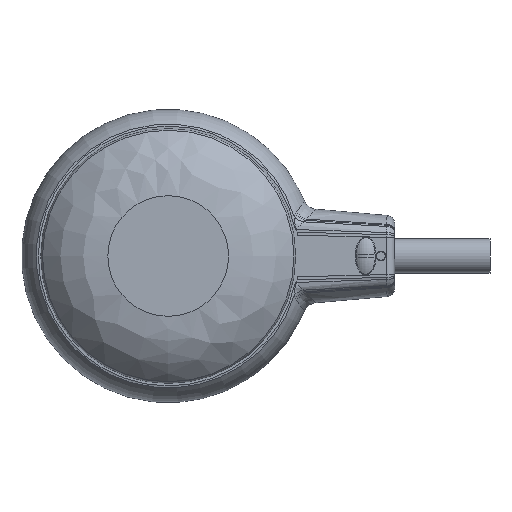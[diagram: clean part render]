
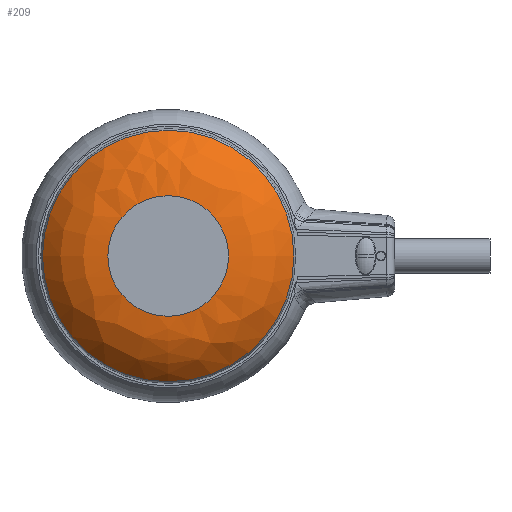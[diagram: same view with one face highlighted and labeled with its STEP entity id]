
A CAD part, front view. The second image highlights one B-rep face of the part: STEP entity #209.
In plain terms, the highlighted free-form (B-spline) face has degree [3, 3] with [4, 7] control points.
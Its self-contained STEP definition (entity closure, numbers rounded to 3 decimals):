
#209 = ADVANCED_FACE( '', ( #593, #594 ), #595, .T. );
#593 = FACE_OUTER_BOUND( '', #1562, .T. );
#594 = FACE_OUTER_BOUND( '', #1563, .T. );
#595 = ( BOUNDED_SURFACE(  )B_SPLINE_SURFACE( 3, 3, ( ( #1566, #1567, #1568, #1569, #1570, #1571, #1572 ), ( #1573, #1574, #1575, #1576, #1577, #1578, #1579 ), ( #1580, #1581, #1582, #1583, #1584, #1585, #1586 ), ( #1587, #1588, #1589, #1590, #1591, #1592, #1593 ) ), .UNSPECIFIED., .F., .T., .F. )B_SPLINE_SURFACE_WITH_KNOTS( ( 4, 4 ), ( 4, 3, 4 ), ( 0., 6.283 ), ( 0.653, 1.112, 1.571 ), .UNSPECIFIED. )GEOMETRIC_REPRESENTATION_ITEM(  )RATIONAL_B_SPLINE_SURFACE( ( ( 1., 0.333, 0.333, 1., 0.333, 0.333, 1. ), ( 0.931, 0.31, 0.31, 0.931, 0.31, 0.31, 0.931 ), ( 0.931, 0.31, 0.31, 0.931, 0.31, 0.31, 0.931 ), ( 1., 0.333, 0.333, 1., 0.333, 0.333, 1. ) ) )REPRESENTATION_ITEM( '' )SURFACE(  ) );
#1562 = EDGE_LOOP( '', ( #4663 ) );
#1563 = EDGE_LOOP( '', ( #4664 ) );
#1566 = CARTESIAN_POINT( '', ( -185.298, -105.753, -22.001 ) );
#1567 = CARTESIAN_POINT( '', ( -141.295, -105.753, -22.001 ) );
#1568 = CARTESIAN_POINT( '', ( -141.295, -105.753, 22.001 ) );
#1569 = CARTESIAN_POINT( '', ( -185.298, -105.753, 22.001 ) );
#1570 = CARTESIAN_POINT( '', ( -229.301, -105.753, 22.001 ) );
#1571 = CARTESIAN_POINT( '', ( -229.301, -105.753, -22.001 ) );
#1572 = CARTESIAN_POINT( '', ( -185.298, -105.753, -22.001 ) );
#1573 = CARTESIAN_POINT( '', ( -185.298, -105.753, -31.519 ) );
#1574 = CARTESIAN_POINT( '', ( -122.26, -105.753, -31.519 ) );
#1575 = CARTESIAN_POINT( '', ( -122.26, -105.753, 31.519 ) );
#1576 = CARTESIAN_POINT( '', ( -185.298, -105.753, 31.519 ) );
#1577 = CARTESIAN_POINT( '', ( -248.337, -105.753, 31.519 ) );
#1578 = CARTESIAN_POINT( '', ( -248.337, -105.753, -31.519 ) );
#1579 = CARTESIAN_POINT( '', ( -185.298, -105.753, -31.519 ) );
#1580 = CARTESIAN_POINT( '', ( -185.298, -101.536, -40.052 ) );
#1581 = CARTESIAN_POINT( '', ( -105.194, -101.536, -40.052 ) );
#1582 = CARTESIAN_POINT( '', ( -105.194, -101.536, 40.052 ) );
#1583 = CARTESIAN_POINT( '', ( -185.298, -101.536, 40.052 ) );
#1584 = CARTESIAN_POINT( '', ( -265.402, -101.536, 40.052 ) );
#1585 = CARTESIAN_POINT( '', ( -265.402, -101.536, -40.052 ) );
#1586 = CARTESIAN_POINT( '', ( -185.298, -101.536, -40.052 ) );
#1587 = CARTESIAN_POINT( '', ( -185.298, -93.975, -45.833 ) );
#1588 = CARTESIAN_POINT( '', ( -93.632, -93.975, -45.833 ) );
#1589 = CARTESIAN_POINT( '', ( -93.632, -93.975, 45.833 ) );
#1590 = CARTESIAN_POINT( '', ( -185.298, -93.975, 45.833 ) );
#1591 = CARTESIAN_POINT( '', ( -276.965, -93.975, 45.833 ) );
#1592 = CARTESIAN_POINT( '', ( -276.965, -93.975, -45.833 ) );
#1593 = CARTESIAN_POINT( '', ( -185.298, -93.975, -45.833 ) );
#4663 = ORIENTED_EDGE( '', *, *, #5453, .T. );
#4664 = ORIENTED_EDGE( '', *, *, #5519, .T. );
#5453 = EDGE_CURVE( '', #5808, #5808, #5809, .F. );
#5519 = EDGE_CURVE( '', #5921, #5921, #5922, .T. );
#5808 = VERTEX_POINT( '', #6353 );
#5809 = CIRCLE( '', #6354, 22.001 );
#5921 = VERTEX_POINT( '', #6909 );
#5922 = CIRCLE( '', #6910, 45.833 );
#6353 = CARTESIAN_POINT( '', ( -185.298, -105.753, -22.001 ) );
#6354 = AXIS2_PLACEMENT_3D( '', #8570, #8571, #8572 );
#6909 = CARTESIAN_POINT( '', ( -185.298, -93.975, -45.833 ) );
#6910 = AXIS2_PLACEMENT_3D( '', #8585, #8586, #8587 );
#8570 = CARTESIAN_POINT( '', ( -185.298, -105.753, 0. ) );
#8571 = DIRECTION( '', ( 0., -1., 0. ) );
#8572 = DIRECTION( '', ( 0., 0., -1. ) );
#8585 = CARTESIAN_POINT( '', ( -185.298, -93.975, 0. ) );
#8586 = DIRECTION( '', ( 0., -1., 0. ) );
#8587 = DIRECTION( '', ( 0., 0., -1. ) );
